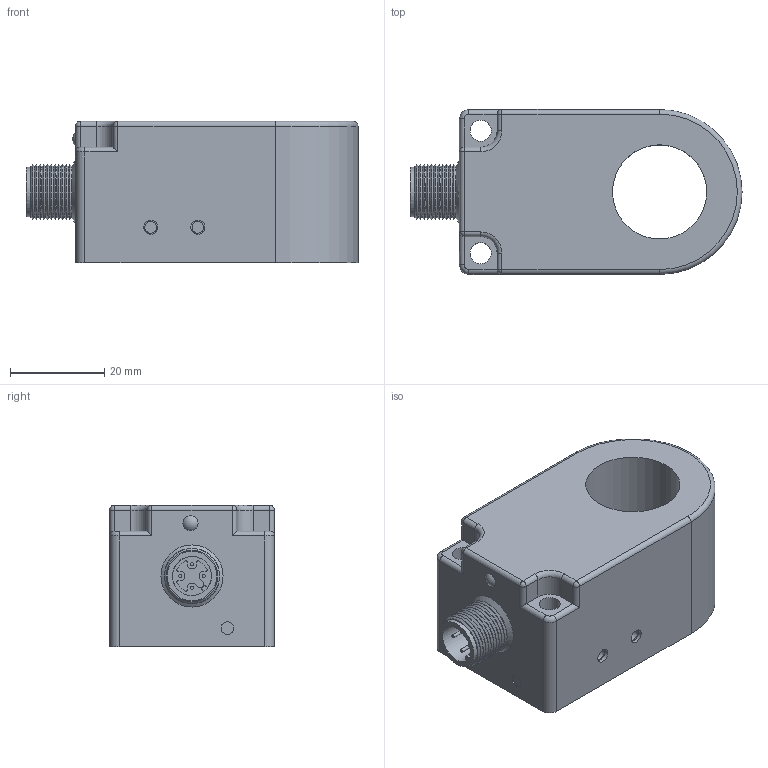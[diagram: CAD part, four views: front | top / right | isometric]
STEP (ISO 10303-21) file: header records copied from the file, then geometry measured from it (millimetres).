
FILE_DESCRIPTION((''),'2;1');
FILE_NAME('C:\TurckZip\BI20R-W30-H1.stp','2011-06-09T16:49:55',('IKOROL'),(''),'Autodesk Inventor 2010','Autodesk Inventor 2010','');
FILE_SCHEMA(('CONFIG_CONTROL_DESIGN'));
Length unit declared in the file: millimetre
Products named in the file (1): Part1
Bounding box: 70.5 x 35 x 30 mm (x, y, z)
Volume: 48589.6 mm3; surface area: 12094.1 mm2
Topology: 2 solids, 2 shells, 119 faces, 264 edges, 157 vertices
Faces by surface type: cylinder 50, plane 36, cone 23, sphere 5, torus 4, bspline 1
Full cylindrical faces by diameter (mm): 0.671 x4, 2.5 x2, 2.7 x1, 3 x2, 3.2 x1, 4.5 x2, 8.3 x1, 10.5 x1, 20 x1
Entity records: 3286 total; most frequent: DIRECTION 587, CARTESIAN_POINT 541, ORIENTED_EDGE 442, AXIS2_PLACEMENT_3D 247, EDGE_CURVE 221, EDGE_LOOP 175, VERTEX_POINT 156, CIRCLE 124
